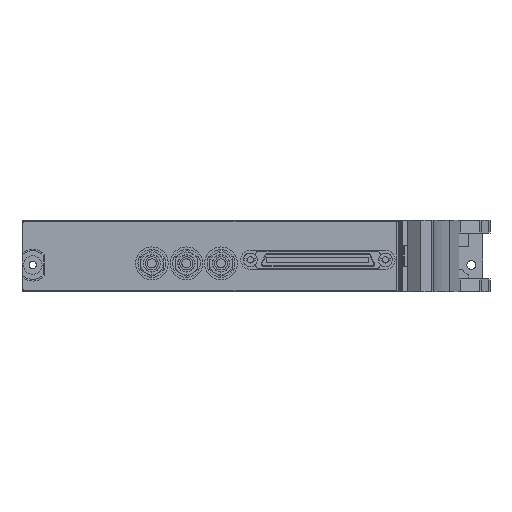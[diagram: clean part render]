
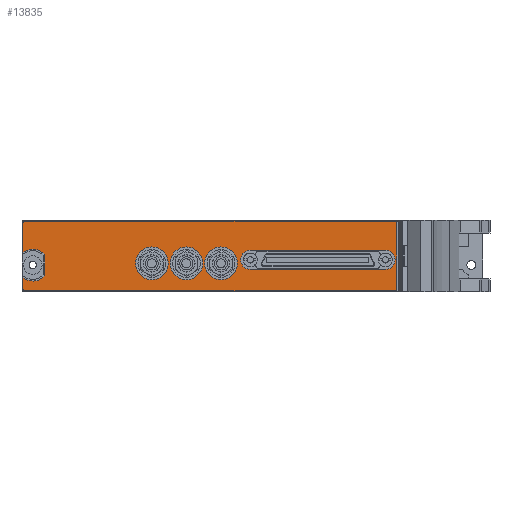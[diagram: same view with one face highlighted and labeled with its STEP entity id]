
A CAD part, left-side view. The second image highlights one B-rep face of the part: STEP entity #13835.
In plain terms, the highlighted planar face has unit normal (-1, 0, 0).
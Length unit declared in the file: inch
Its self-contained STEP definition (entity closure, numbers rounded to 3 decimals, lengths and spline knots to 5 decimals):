
#9831=CARTESIAN_POINT('',(-0.115,4.4104,0.758));
#9832=DIRECTION('',(-1.,0.,0.));
#9833=DIRECTION('',(0.,0.,1.));
#9834=AXIS2_PLACEMENT_3D('',#9831,#9832,#9833);
#9836=DIRECTION('',(0.,1.,0.));
#9837=VECTOR('',#9836,4.07);
#9838=CARTESIAN_POINT('',(-0.115,0.3404,0.778));
#9839=LINE('',#9838,#9837);
#9840=CARTESIAN_POINT('',(-0.115,0.3404,0.758));
#9841=DIRECTION('',(-1.,0.,0.));
#9842=DIRECTION('',(0.,-1.,0.));
#9843=AXIS2_PLACEMENT_3D('',#9840,#9841,#9842);
#9845=DIRECTION('',(0.,0.,1.));
#9846=VECTOR('',#9845,0.728);
#9847=CARTESIAN_POINT('',(-0.115,0.3204,0.03));
#9848=LINE('',#9847,#9846);
#9849=CARTESIAN_POINT('',(-0.115,0.3404,0.03));
#9850=DIRECTION('',(-1.,0.,0.));
#9851=DIRECTION('',(0.,0.,-1.));
#9852=AXIS2_PLACEMENT_3D('',#9849,#9850,#9851);
#9854=DIRECTION('',(0.,-1.,0.));
#9855=VECTOR('',#9854,4.07);
#9856=CARTESIAN_POINT('',(-0.115,4.4104,0.01));
#9857=LINE('',#9856,#9855);
#9858=CARTESIAN_POINT('',(-0.115,4.4104,0.03));
#9859=DIRECTION('',(-1.,0.,0.));
#9860=DIRECTION('',(0.,1.,0.));
#9861=AXIS2_PLACEMENT_3D('',#9858,#9859,#9860);
#9863=DIRECTION('',(0.,0.,-1.));
#9864=VECTOR('',#9863,0.1263);
#9865=CARTESIAN_POINT('',(-0.115,4.4304,0.1563));
#9866=LINE('',#9865,#9864);
#9867=CARTESIAN_POINT('',(-0.115,4.3224,0.294));
#9868=DIRECTION('',(1.,0.,0.));
#9869=DIRECTION('',(0.,-0.76,-0.65));
#9870=AXIS2_PLACEMENT_3D('',#9867,#9868,#9869);
#9872=DIRECTION('',(0.,0.,-1.));
#9873=VECTOR('',#9872,0.22747);
#9874=CARTESIAN_POINT('',(-0.115,4.1894,0.40774));
#9875=LINE('',#9874,#9873);
#9876=CARTESIAN_POINT('',(-0.115,4.3224,0.294));
#9877=DIRECTION('',(1.,0.,0.));
#9878=DIRECTION('',(0.,0.617,0.787));
#9879=AXIS2_PLACEMENT_3D('',#9876,#9877,#9878);
#9881=DIRECTION('',(0.,0.,-1.));
#9882=VECTOR('',#9881,0.3263);
#9883=CARTESIAN_POINT('',(-0.115,4.4304,0.758));
#9884=LINE('',#9883,#9882);
#9885=DIRECTION('',(0.,1.,0.));
#9886=VECTOR('',#9885,1.484);
#9887=CARTESIAN_POINT('',(-0.115,0.4474,0.458));
#9888=LINE('',#9887,#9886);
#9889=CARTESIAN_POINT('',(-0.115,1.9314,0.352));
#9890=DIRECTION('',(-1.,0.,0.));
#9891=DIRECTION('',(0.,0.,1.));
#9892=AXIS2_PLACEMENT_3D('',#9889,#9890,#9891);
#9894=DIRECTION('',(0.,-1.,0.));
#9895=VECTOR('',#9894,1.484);
#9896=CARTESIAN_POINT('',(-0.115,1.9314,0.246));
#9897=LINE('',#9896,#9895);
#9898=CARTESIAN_POINT('',(-0.115,0.4474,0.352));
#9899=DIRECTION('',(-1.,0.,0.));
#9900=DIRECTION('',(0.,0.,-1.));
#9901=AXIS2_PLACEMENT_3D('',#9898,#9899,#9900);
#9903=CARTESIAN_POINT('',(-0.115,3.0144,0.313));
#9904=DIRECTION('',(-1.,0.,0.));
#9905=DIRECTION('',(0.,0.,1.));
#9906=AXIS2_PLACEMENT_3D('',#9903,#9904,#9905);
#9908=CARTESIAN_POINT('',(-0.115,3.0144,0.313));
#9909=DIRECTION('',(-1.,0.,0.));
#9910=DIRECTION('',(0.,0.,-1.));
#9911=AXIS2_PLACEMENT_3D('',#9908,#9909,#9910);
#9913=CARTESIAN_POINT('',(-0.115,2.6344,0.313));
#9914=DIRECTION('',(-1.,0.,0.));
#9915=DIRECTION('',(0.,0.,1.));
#9916=AXIS2_PLACEMENT_3D('',#9913,#9914,#9915);
#9918=CARTESIAN_POINT('',(-0.115,2.6344,0.313));
#9919=DIRECTION('',(-1.,0.,0.));
#9920=DIRECTION('',(0.,0.,-1.));
#9921=AXIS2_PLACEMENT_3D('',#9918,#9919,#9920);
#9923=CARTESIAN_POINT('',(-0.115,2.2544,0.313));
#9924=DIRECTION('',(-1.,0.,0.));
#9925=DIRECTION('',(0.,0.,1.));
#9926=AXIS2_PLACEMENT_3D('',#9923,#9924,#9925);
#9928=CARTESIAN_POINT('',(-0.115,2.2544,0.313));
#9929=DIRECTION('',(-1.,0.,0.));
#9930=DIRECTION('',(0.,0.,-1.));
#9931=AXIS2_PLACEMENT_3D('',#9928,#9929,#9930);
#13210=CARTESIAN_POINT('',(-0.115,4.4104,0.778));
#13211=CARTESIAN_POINT('',(-0.115,4.4304,0.758));
#13212=VERTEX_POINT('',#13210);
#13213=VERTEX_POINT('',#13211);
#13214=CARTESIAN_POINT('',(-0.115,4.4304,0.4317));
#13215=VERTEX_POINT('',#13214);
#13216=CARTESIAN_POINT('',(-0.115,4.1894,0.40774));
#13217=VERTEX_POINT('',#13216);
#13218=CARTESIAN_POINT('',(-0.115,4.1894,0.18026));
#13219=VERTEX_POINT('',#13218);
#13220=CARTESIAN_POINT('',(-0.115,4.4304,0.1563));
#13221=VERTEX_POINT('',#13220);
#13222=CARTESIAN_POINT('',(-0.115,4.4304,0.03));
#13223=VERTEX_POINT('',#13222);
#13224=CARTESIAN_POINT('',(-0.115,4.4104,0.01));
#13225=VERTEX_POINT('',#13224);
#13226=CARTESIAN_POINT('',(-0.115,0.3404,0.01));
#13227=VERTEX_POINT('',#13226);
#13228=CARTESIAN_POINT('',(-0.115,0.3204,0.03));
#13229=VERTEX_POINT('',#13228);
#13230=CARTESIAN_POINT('',(-0.115,0.3204,0.758));
#13231=VERTEX_POINT('',#13230);
#13232=CARTESIAN_POINT('',(-0.115,0.3404,0.778));
#13233=VERTEX_POINT('',#13232);
#13234=CARTESIAN_POINT('',(-0.115,0.4474,0.458));
#13235=CARTESIAN_POINT('',(-0.115,1.9314,0.458));
#13236=VERTEX_POINT('',#13234);
#13237=VERTEX_POINT('',#13235);
#13238=CARTESIAN_POINT('',(-0.115,1.9314,0.246));
#13239=VERTEX_POINT('',#13238);
#13240=CARTESIAN_POINT('',(-0.115,0.4474,0.246));
#13241=VERTEX_POINT('',#13240);
#13242=CARTESIAN_POINT('',(-0.115,3.0144,0.493));
#13243=CARTESIAN_POINT('',(-0.115,3.0144,0.133));
#13244=VERTEX_POINT('',#13242);
#13245=VERTEX_POINT('',#13243);
#13246=CARTESIAN_POINT('',(-0.115,2.6344,0.493));
#13247=CARTESIAN_POINT('',(-0.115,2.6344,0.133));
#13248=VERTEX_POINT('',#13246);
#13249=VERTEX_POINT('',#13247);
#13250=CARTESIAN_POINT('',(-0.115,2.2544,0.493));
#13251=CARTESIAN_POINT('',(-0.115,2.2544,0.133));
#13252=VERTEX_POINT('',#13250);
#13253=VERTEX_POINT('',#13251);
#13778=CARTESIAN_POINT('',(-0.115,4.3224,0.294));
#13779=DIRECTION('',(-1.,0.,0.));
#13780=DIRECTION('',(0.,0.,1.));
#13781=AXIS2_PLACEMENT_3D('',#13778,#13779,#13780);
#13782=PLANE('',#13781);
#13784=ORIENTED_EDGE('',*,*,#13783,.F.);
#13786=ORIENTED_EDGE('',*,*,#13785,.F.);
#13788=ORIENTED_EDGE('',*,*,#13787,.F.);
#13790=ORIENTED_EDGE('',*,*,#13789,.F.);
#13792=ORIENTED_EDGE('',*,*,#13791,.F.);
#13794=ORIENTED_EDGE('',*,*,#13793,.F.);
#13796=ORIENTED_EDGE('',*,*,#13795,.F.);
#13798=ORIENTED_EDGE('',*,*,#13797,.F.);
#13800=ORIENTED_EDGE('',*,*,#13799,.F.);
#13802=ORIENTED_EDGE('',*,*,#13801,.F.);
#13804=ORIENTED_EDGE('',*,*,#13803,.F.);
#13806=ORIENTED_EDGE('',*,*,#13805,.F.);
#13807=EDGE_LOOP('',(#13784,#13786,#13788,#13790,#13792,#13794,#13796,#13798,
#13800,#13802,#13804,#13806));
#13808=FACE_OUTER_BOUND('',#13807,.F.);
#13810=ORIENTED_EDGE('',*,*,#13809,.T.);
#13812=ORIENTED_EDGE('',*,*,#13811,.T.);
#13814=ORIENTED_EDGE('',*,*,#13813,.T.);
#13816=ORIENTED_EDGE('',*,*,#13815,.T.);
#13817=EDGE_LOOP('',(#13810,#13812,#13814,#13816));
#13818=FACE_BOUND('',#13817,.F.);
#13820=ORIENTED_EDGE('',*,*,#13819,.T.);
#13822=ORIENTED_EDGE('',*,*,#13821,.T.);
#13823=EDGE_LOOP('',(#13820,#13822));
#13824=FACE_BOUND('',#13823,.F.);
#13825=ORIENTED_EDGE('',*,*,#13758,.T.);
#13826=ORIENTED_EDGE('',*,*,#13772,.T.);
#13827=EDGE_LOOP('',(#13825,#13826));
#13828=FACE_BOUND('',#13827,.F.);
#13830=ORIENTED_EDGE('',*,*,#13829,.T.);
#13832=ORIENTED_EDGE('',*,*,#13831,.T.);
#13833=EDGE_LOOP('',(#13830,#13832));
#13834=FACE_BOUND('',#13833,.F.);
#13835=ADVANCED_FACE('',(#13808,#13818,#13824,#13828,#13834),#13782,.T.);
#9835=CIRCLE('',#9834,0.02);
#9844=CIRCLE('',#9843,0.02);
#9853=CIRCLE('',#9852,0.02);
#9862=CIRCLE('',#9861,0.02);
#9871=CIRCLE('',#9870,0.175);
#9880=CIRCLE('',#9879,0.175);
#9893=CIRCLE('',#9892,0.106);
#9902=CIRCLE('',#9901,0.106);
#9907=CIRCLE('',#9906,0.18);
#9912=CIRCLE('',#9911,0.18);
#9917=CIRCLE('',#9916,0.18);
#9922=CIRCLE('',#9921,0.18);
#9927=CIRCLE('',#9926,0.18);
#9932=CIRCLE('',#9931,0.18);
#13758=EDGE_CURVE('',#13248,#13249,#9917,.T.);
#13772=EDGE_CURVE('',#13249,#13248,#9922,.T.);
#13783=EDGE_CURVE('',#13212,#13213,#9835,.T.);
#13785=EDGE_CURVE('',#13233,#13212,#9839,.T.);
#13787=EDGE_CURVE('',#13231,#13233,#9844,.T.);
#13789=EDGE_CURVE('',#13229,#13231,#9848,.T.);
#13791=EDGE_CURVE('',#13227,#13229,#9853,.T.);
#13793=EDGE_CURVE('',#13225,#13227,#9857,.T.);
#13795=EDGE_CURVE('',#13223,#13225,#9862,.T.);
#13797=EDGE_CURVE('',#13221,#13223,#9866,.T.);
#13799=EDGE_CURVE('',#13219,#13221,#9871,.T.);
#13801=EDGE_CURVE('',#13217,#13219,#9875,.T.);
#13803=EDGE_CURVE('',#13215,#13217,#9880,.T.);
#13805=EDGE_CURVE('',#13213,#13215,#9884,.T.);
#13809=EDGE_CURVE('',#13236,#13237,#9888,.T.);
#13811=EDGE_CURVE('',#13237,#13239,#9893,.T.);
#13813=EDGE_CURVE('',#13239,#13241,#9897,.T.);
#13815=EDGE_CURVE('',#13241,#13236,#9902,.T.);
#13819=EDGE_CURVE('',#13244,#13245,#9907,.T.);
#13821=EDGE_CURVE('',#13245,#13244,#9912,.T.);
#13829=EDGE_CURVE('',#13252,#13253,#9927,.T.);
#13831=EDGE_CURVE('',#13253,#13252,#9932,.T.);
